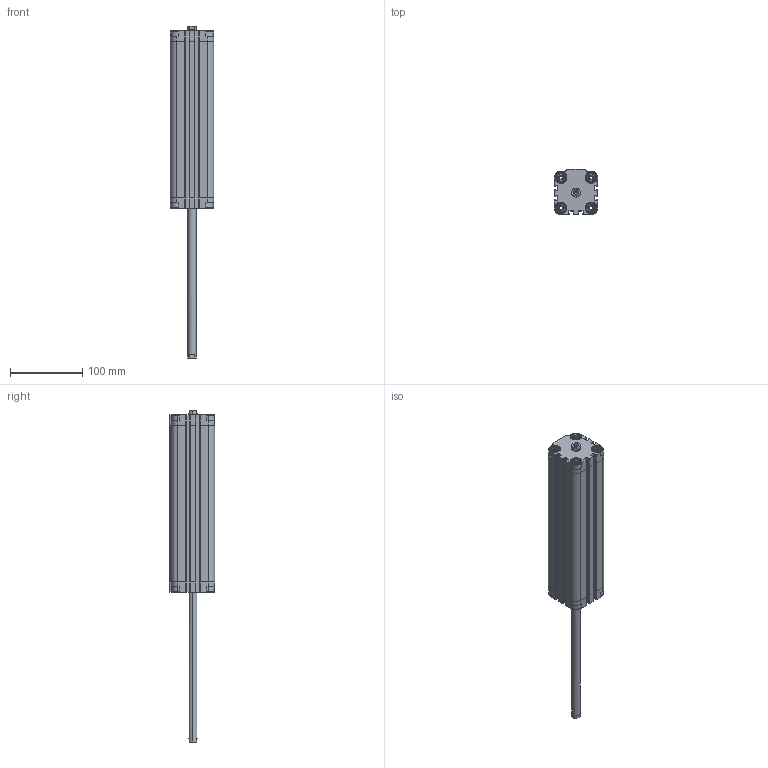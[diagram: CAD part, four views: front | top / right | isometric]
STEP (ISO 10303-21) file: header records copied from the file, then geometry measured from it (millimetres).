
FILE_DESCRIPTION (( 'STEP AP203' ), '1' );
FILE_NAME ('CDVU40-200F-P.STEP', '2020-07-24T18:35:00', ( '' ), ( '' ), 'SwSTEP 2.0', 'SolidWorks 2019', '' );
FILE_SCHEMA (( 'CONFIG_CONTROL_DESIGN' ));
Length unit declared in the file: millimetre
Products named in the file (1): CDVU40-200F-P
Bounding box: 60 x 62.5 x 458.5 mm (x, y, z)
Volume: 575631.4 mm3; surface area: 159485.4 mm2
Topology: 2 solids, 2 shells, 722 faces, 1928 edges, 1244 vertices
Faces by surface type: plane 422, cylinder 236, cone 64
Entity records: 22623 total; most frequent: CARTESIAN_POINT 4463, ORIENTED_EDGE 3840, DIRECTION 3710, EDGE_CURVE 1920, AXIS2_PLACEMENT_3D 1259, VERTEX_POINT 1244, VECTOR 1192, LINE 1192
